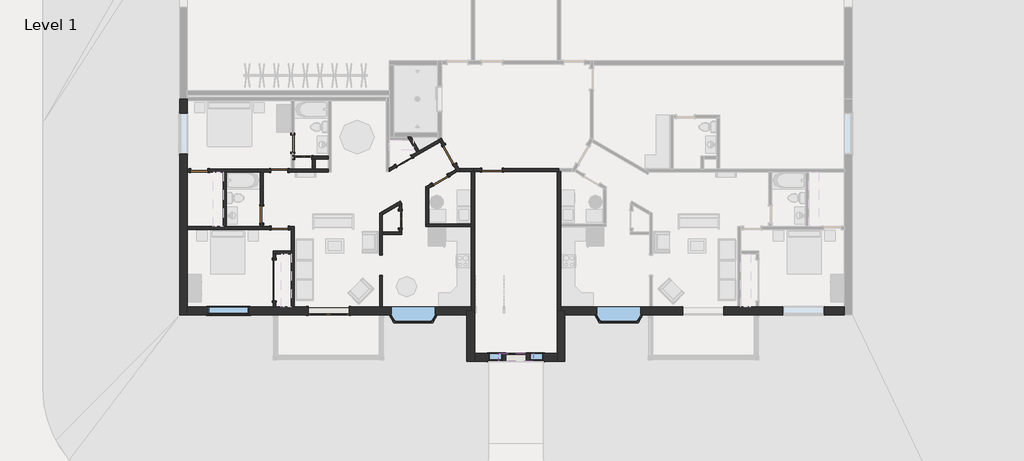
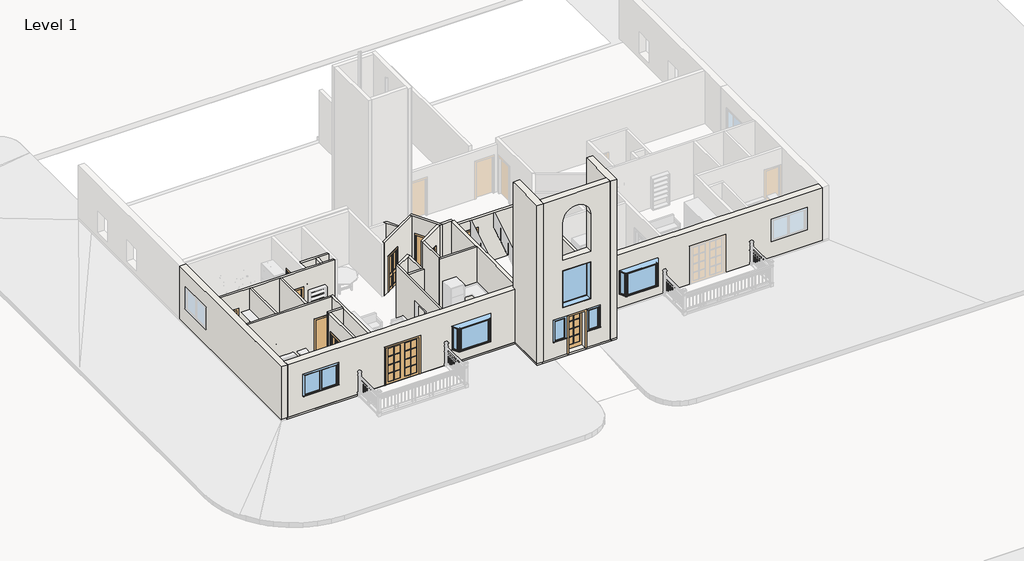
# One storey, part 1 of 4: 33 walls, 14 doors, 6 windows.
"""IFC4 building model written with IfcOpenShell, lengths in millimetres."""

from ifc_helpers import new_model, si_unit, point, frame, frame_2d, origin, origin_with_axes, place, context, project, spatial, polyline, circle_curve, trimmed, segment, composite_curve, outline, extrude, faceted_brep, transform, mapped, element, save
from components import door_28b41c19, door_77c9d7c5, door_c95ce901, door_0a477ef8, door_91cbdfe0, door_39079f6b, door_140ee3fe, door_3dff5d0e, door_7719ec38, window_fb9100aa, window_7fb523db, window_565d5888, window_ed008871, window_5cb77ff5, window_795f97d9

model = new_model("IFC4")

# Units and contexts
model_context = context("Model", 3, world=origin())
ifc_project = project(units=[si_unit("LENGTHUNIT", "METRE", prefix="MILLI")], contexts=[model_context])

# Site, building, storey
site = spatial("IfcSite", under=ifc_project)
building = spatial("IfcBuilding", under=site)
storey = spatial("IfcBuildingStorey", under=building, Name="Level 1", Elevation=0.0)

# Doors
placement = place(None, origin())
door_shape = door_28b41c19(model_context)
element("IfcDoor", 1, ObjectType="Bifold-2 Panel : 30\" x 80\"", at=placement, inside=storey, context=model_context, shape_type="MappedRepresentation", body=[
    mapped(door_shape, transform((-10106.3500398, -807.7286799, 0.0), x_axis=(-1.0, 0.0, 0.0), y_axis=(0.0, -1.0, 0.0), z_axis=(0.0, 0.0, 1.0))),
])
door_2_shape = door_77c9d7c5(model_context)
element("IfcDoor", 2, ObjectType="Bifold-2 Panel : 30\" x 80\"", at=placement, inside=storey, context=model_context, shape_type="MappedRepresentation", body=[
    mapped(door_2_shape, transform((-5777.2375398, -3569.9786799, 0.0), x_axis=(0.0, -1.0, 0.0), y_axis=(1.0, 0.0, 0.0), z_axis=(0.0, 0.0, 1.0))),
])
element("IfcDoor", 3, ObjectType="Bifold-2 Panel : 30\" x 80\"", at=placement, inside=storey, context=model_context, shape_type="MappedRepresentation", body=[
    mapped(door_2_shape, transform((-5620.6593942, -978.2984974, 0.0), x_axis=(-0.8660254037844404, -0.4999999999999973, 0.0), y_axis=(0.4999999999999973, -0.8660254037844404, 0.0), z_axis=(0.0, 0.0, 1.0))),
])
door_3_shape = door_c95ce901(model_context)
element("IfcDoor", 4, ObjectType="Bifold-4 Panel : 72\" x 80\"", at=placement, inside=storey, context=model_context, shape_type="MappedRepresentation", body=[
    mapped(door_3_shape, transform((-11387.4625398, -6287.7786799, 0.0), x_axis=(0.0, 1.0, 0.0), y_axis=(-1.0, 0.0, 0.0), z_axis=(0.0, 0.0, 1.0))),
])
door_4_shape = door_0a477ef8(model_context)
element("IfcDoor", 5, ObjectType="Double-Glass 2 : 72\" x 84\"", at=placement, inside=storey, context=model_context, shape_type="MappedRepresentation", body=[
    mapped(door_4_shape, transform((-8972.8750398, -7646.6786799, 0.0), x_axis=(-1.0, 0.0, 0.0), y_axis=(0.0, -1.0, 0.0), z_axis=(0.0, 0.0, 1.0))),
])
door_5_shape = door_91cbdfe0(model_context)
element("IfcDoor", 6, ObjectType="Single-Flush : 30\" x 80\"", at=placement, inside=storey, context=model_context, shape_type="MappedRepresentation", body=[
    mapped(door_5_shape, transform((-11154.1000398, -3954.1536799, 0.0), x_axis=(1.0, 0.0, 0.0), y_axis=(0.0, 1.0, 0.0), z_axis=(0.0, 0.0, 1.0))),
])
element("IfcDoor", 7, ObjectType="Single-Flush : 30\" x 80\"", at=placement, inside=storey, context=model_context, shape_type="MappedRepresentation", body=[
    mapped(door_5_shape, transform((-4004.5369788, -1809.0046321, 0.0), x_axis=(0.8660254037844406, 0.4999999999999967, 0.0), y_axis=(-0.4999999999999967, 0.8660254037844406, 0.0), z_axis=(0.0, 0.0, 1.0))),
])
element("IfcDoor", 8, ObjectType="Single-Flush : 30\" x 80\"", at=placement, inside=storey, context=model_context, shape_type="MappedRepresentation", body=[
    mapped(door_5_shape, transform((-11949.4375398, -3358.8411799, 0.0), x_axis=(0.0, -1.0, 0.0), y_axis=(1.0, 0.0, 0.0), z_axis=(0.0, 0.0, 1.0))),
])
door_6_shape = door_39079f6b(model_context)
element("IfcDoor", 9, ObjectType="Single-Flush : 30\" x 80\"", at=placement, inside=storey, context=model_context, shape_type="MappedRepresentation", body=[
    mapped(door_6_shape, transform((-11169.9750398, -1391.9286799, 0.0), x_axis=(1.0, 0.0, 0.0), y_axis=(0.0, 1.0, 0.0), z_axis=(0.0, 0.0, 1.0))),
])
element("IfcDoor", 10, ObjectType="Single-Flush : 30\" x 80\"", at=placement, inside=storey, context=model_context, shape_type="MappedRepresentation", body=[
    mapped(door_6_shape, transform((-10574.6625398, -183.8411799, 0.0), x_axis=(0.0, -1.0, 0.0), y_axis=(1.0, 0.0, 0.0), z_axis=(0.0, 0.0, 1.0))),
])
element("IfcDoor", 11, ObjectType="Single-Flush : 30\" x 80\"", at=placement, inside=storey, context=model_context, shape_type="MappedRepresentation", body=[
    mapped(door_6_shape, transform((-14725.9750398, -1391.9286799, 0.0), x_axis=(-1.0, 0.0, 0.0), y_axis=(0.0, -1.0, 0.0), z_axis=(0.0, 0.0, 1.0))),
])
door_7_shape = door_140ee3fe(model_context)
element("IfcDoor", 12, ObjectType="Single-Flush : 36\" x 80\"", at=placement, inside=storey, context=model_context, shape_type="MappedRepresentation", body=[
    mapped(door_7_shape, transform((-3603.7554054, -687.0786799, 0.0), x_axis=(-0.4999999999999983, 0.8660254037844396, 0.0), y_axis=(-0.8660254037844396, -0.4999999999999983, 0.0), z_axis=(0.0, 0.0, 1.0))),
])
door_8_shape = door_3dff5d0e(model_context)
element("IfcDoor", 13, ObjectType="Single-Flush : 36\" x 84\"", at=placement, inside=storey, context=model_context, shape_type="MappedRepresentation", body=[
    mapped(door_8_shape, transform((-1698.9500398, -1372.8786799, 0.0), x_axis=(-1.0, 0.0, 0.0), y_axis=(0.0, -1.0, 0.0), z_axis=(0.0, 0.0, 1.0))),
])
door_9_shape = door_7719ec38(model_context)
element("IfcDoor", 14, ObjectType="Single-Glass 2 : 36\" x 84\"", at=placement, inside=storey, context=model_context, shape_type="MappedRepresentation", body=[
    mapped(door_9_shape, transform((-657.5500398, -9714.6359666, 0.0), x_axis=(1.0, 0.0, 0.0), y_axis=(0.0, 1.0, 0.0), z_axis=(0.0, 0.0, 1.0))),
])

# Walls
element("IfcWall", 15, ObjectType="Exterior - Brick on Mtl. Stud", at=placement, inside=storey, context=model_context, shape_type="Brep", body=[
    faceted_brep([(-2813.3750398, -7646.6786799, 9144.0), (-2813.3750398, -7646.6786799, 6096.0), (-2813.3750398, -7646.6786799, 3048.0), (-2813.3750398, -7646.6786799, 0.0), (-2813.3750398, -7822.8911799, 0.0), (-2813.3750398, -9890.8484666, 0.0), (-2813.3750398, -9890.8484666, 9144.0), (-2813.3750398, -7822.8911799, 9144.0), (-2460.9500398, -7646.6786799, 0.0), (-2460.9500398, -7646.6786799, 3048.0), (-2460.9500398, -7646.6786799, 6096.0), (-2460.9500398, -7646.6786799, 9144.0), (-2460.9500398, -9538.4234666, 9144.0), (-2460.9500398, -9890.8484666, 9144.0), (-2460.9500398, -9890.8484666, 0.0), (-2460.9500398, -9538.4234666, 0.0), (-2616.5250398, -7646.6786799, 0.0), (-2616.5250398, -7646.6786799, 9144.0)], [[[0, 1, 2, 3, 4, 5, 6, 7]], [[8, 9, 10, 11, 12, 13, 14, 15]], [[5, 4, 3, 16, 8, 15, 14]], [[0, 7, 6, 13, 12, 11, 17]], [[6, 5, 14, 13]], [[0, 17, 11, 10, 9, 8, 16, 3, 2, 1]]]),
])
element("IfcWall", 16, ObjectType="Exterior - Brick on Mtl. Stud", at=placement, inside=storey, context=model_context, shape_type="SweptSolid", body=[
    extrude(outline(polyline([(9144.0, 1196.6499602), (9144.0, -2460.9500398), (0.0, -2460.9500398), (0.0, -1089.3500398), (2133.6, -1089.3500398), (2133.6, -174.9500398), (0.0, -174.9500398), (0.0, 1196.6499602), (9144.0, 1196.6499602)]), holes=[polyline([(4876.8, 129.8499602), (2743.2, 129.8499602), (2743.2, -1394.1500398), (4876.8, -1394.1500398), (4876.8, 129.8499602)]), polyline([(914.4, -1851.3500398), (2133.6, -1851.3500398), (2133.6, -1241.7500398), (914.4, -1241.7500398), (914.4, -1851.3500398)]), composite_curve([segment(polyline([(5486.4, -1394.1500398), (7639.05, -1394.1500398)]), True, "CONTINUOUS"), segment(trimmed(circle_curve(frame_2d((7639.05, -632.1500398)), 762.0), [point((7639.05, -1394.1500398))], [point((7639.05, 129.8499602))], True, "CARTESIAN"), True, "CONTINUOUS"), segment(polyline([(7639.05, 129.8499602), (5486.4, 129.8499602), (5486.4, -1394.1500398)]), True, "CONTINUOUS")], self_intersect=False), polyline([(2133.6, 587.0499602), (914.4, 587.0499602), (914.4, -22.5500398), (2133.6, -22.5500398), (2133.6, 587.0499602)])]), frame((0.0, -9890.8484666, 0.0), z_axis=(0.0, 1.0, 0.0), x_axis=(0.0, 0.0, 1.0)), (0.0, 0.0, 1.0), 352.425),
])
element("IfcWall", 17, ObjectType="Exterior - Brick on Mtl. Stud", at=placement, inside=storey, context=model_context, shape_type="Brep", body=[
    faceted_brep([(1549.0749602, -9890.8484666, 0.0), (1549.0749602, -7822.8911799, 0.0), (1549.0749602, -7646.6786799, 0.0), (1549.0749602, -7646.6786799, 3048.0), (1549.0749602, -7646.6786799, 6096.0), (1549.0749602, -7646.6786799, 9144.0), (1549.0749602, -7822.8911799, 9144.0), (1549.0749602, -9890.8484666, 9144.0), (1196.6499602, -9890.8484666, 0.0), (1196.6499602, -9890.8484666, 9144.0), (1196.6499602, -9538.4234666, 9144.0), (1196.6499602, -7646.6786799, 9144.0), (1196.6499602, -7646.6786799, 6096.0), (1196.6499602, -7646.6786799, 3048.0), (1196.6499602, -7646.6786799, 0.0), (1196.6499602, -9538.4234666, 0.0), (1352.2249602, -7646.6786799, 0.0), (1352.2249602, -7646.6786799, 9144.0)], [[[0, 1, 2, 3, 4, 5, 6, 7]], [[8, 9, 10, 11, 12, 13, 14, 15]], [[2, 1, 0, 8, 15, 14, 16]], [[7, 6, 5, 17, 11, 10, 9]], [[0, 7, 9, 8]], [[2, 16, 14, 13, 12, 11, 17, 5, 4, 3]]]),
])
element("IfcWall", 18, ObjectType="Exterior - Brick on Mtl. Stud", at=placement, inside=storey, context=model_context, shape_type="Brep", body=[
    faceted_brep([(-15259.3750398, -7822.8911799, 0.0), (-9887.2750398, -7822.8911799, 0.0), (-9887.2750398, -7822.8911799, 2133.6), (-8058.4750398, -7822.8911799, 2133.6), (-8058.4750398, -7822.8911799, 0.0), (-2813.3750398, -7822.8911799, 0.0), (-2813.3750398, -7822.8911799, 3048.0), (-8058.4750398, -7822.8911799, 3048.0), (-9887.2750398, -7822.8911799, 3048.0), (-15259.3750398, -7822.8911799, 3048.0), (-6259.7532738, -7822.8911799, 2133.6), (-4151.6375398, -7822.8911799, 2133.6), (-4151.6375398, -7822.8911799, 762.0), (-6259.7532738, -7822.8911799, 762.0), (-14350.5312898, -7822.8911799, 2133.6), (-12521.7312898, -7822.8911799, 2133.6), (-12521.7312898, -7822.8911799, 914.4), (-14350.5312898, -7822.8911799, 914.4), (-9887.2750398, -7470.4661799, 2133.6), (-9887.2750398, -7470.4661799, 0.0), (-10512.7500398, -7470.4661799, 0.0), (-10636.5750398, -7470.4661799, 0.0), (-11325.5500398, -7470.4661799, 0.0), (-11449.3750398, -7470.4661799, 0.0), (-15259.3750398, -7470.4661799, 0.0), (-15259.3750398, -7470.4661799, 3048.0), (-11449.3750398, -7470.4661799, 3048.0), (-11325.5500398, -7470.4661799, 3048.0), (-10636.5750398, -7470.4661799, 3048.0), (-10512.7500398, -7470.4661799, 3048.0), (-9887.2750398, -7470.4661799, 3048.0), (-8058.4750398, -7470.4661799, 3048.0), (-6702.7500398, -7470.4661799, 3048.0), (-6578.9250398, -7470.4661799, 3048.0), (-2616.5250398, -7470.4661799, 3048.0), (-2616.5250398, -7470.4661799, 0.0), (-6578.9250398, -7470.4661799, 0.0), (-6702.7500398, -7470.4661799, 0.0), (-8058.4750398, -7470.4661799, 0.0), (-8058.4750398, -7470.4661799, 2133.6), (-4218.9373798, -7470.4661799, 2133.6), (-6192.5376998, -7470.4661799, 2133.6), (-6192.5376998, -7470.4661799, 762.0), (-4218.9373798, -7470.4661799, 762.0), (-14350.5312898, -7470.4661799, 2133.6), (-14350.5312898, -7470.4661799, 914.4), (-12521.7312898, -7470.4661799, 914.4), (-12521.7312898, -7470.4661799, 2133.6), (-2616.5250398, -7646.6786799, 0.0), (-2813.3750398, -7646.6786799, 0.0), (-2813.3750398, -7646.6786799, 3048.0), (-2616.5250398, -7646.6786799, 3048.0), (-4218.9373798, -7783.9404412, 2133.6), (-6192.5376998, -7783.9890922, 2133.6), (-4218.9373798, -7783.9404412, 762.0), (-6192.5376998, -7783.9890922, 762.0)], [[[0, 1, 2, 3, 4, 5, 6, 7, 8, 9], [10, 11, 12, 13], [14, 15, 16, 17]], [[18, 19, 20, 21, 22, 23, 24, 25, 26, 27, 28, 29, 30, 31, 32, 33, 34, 35, 36, 37, 38, 39], [40, 41, 42, 43], [44, 45, 46, 47]], [[24, 23, 22, 21, 20, 19, 1, 0]], [[38, 37, 36, 35, 48, 49, 5, 4]], [[9, 8, 7, 6, 50, 51, 34, 33, 32, 31, 30, 29, 28, 27, 26, 25]], [[0, 9, 25, 24]], [[6, 5, 49, 50]], [[49, 48, 51, 50]], [[48, 35, 34, 51]], [[2, 1, 19, 18]], [[3, 2, 18, 39]], [[4, 3, 39, 38]], [[52, 11, 10, 53, 41, 40]], [[54, 43, 42, 55, 13, 12]], [[52, 40, 43, 54]], [[41, 53, 55, 42]], [[53, 10, 13, 55]], [[11, 52, 54, 12]], [[45, 44, 14, 17]], [[46, 45, 17, 16]], [[47, 46, 16, 15]], [[44, 47, 15, 14]]]),
])
element("IfcWall", 19, ObjectType="Exterior - Brick on Mtl. Stud", at=placement, inside=storey, context=model_context, shape_type="Brep", body=[
    faceted_brep([(-15611.8000398, 1795.7713201, 0.0), (-15611.8000398, -7822.8911799, 0.0), (-15611.8000398, -7822.8911799, 3048.0), (-15611.8000398, 1795.7713201, 3048.0), (-15611.8000398, 1170.2963201, 2133.6), (-15611.8000398, -658.5036799, 2133.6), (-15611.8000398, -658.5036799, 914.4), (-15611.8000398, 1170.2963201, 914.4), (-15259.3750398, 1795.7713201, 0.0), (-15259.3750398, 1795.7713201, 3048.0), (-15259.3750398, 1717.9838201, 3048.0), (-15259.3750398, -1330.0161799, 3048.0), (-15259.3750398, -1453.8411799, 3048.0), (-15259.3750398, -3892.2411799, 3048.0), (-15259.3750398, -4016.0661799, 3048.0), (-15259.3750398, -7470.4661799, 3048.0), (-15259.3750398, -7822.8911799, 3048.0), (-15259.3750398, -7822.8911799, 0.0), (-15259.3750398, -7470.4661799, 0.0), (-15259.3750398, -4016.0661799, 0.0), (-15259.3750398, -3892.2411799, 0.0), (-15259.3750398, -1453.8411799, 0.0), (-15259.3750398, -1330.0161799, 0.0), (-15259.3750398, 1717.9838201, 0.0), (-15259.3750398, 1170.2963201, 2133.6), (-15259.3750398, 1170.2963201, 914.4), (-15259.3750398, -658.5036799, 914.4), (-15259.3750398, -658.5036799, 2133.6)], [[[0, 1, 2, 3], [4, 5, 6, 7]], [[8, 9, 10, 11, 12, 13, 14, 15, 16, 17, 18, 19, 20, 21, 22, 23], [24, 25, 26, 27]], [[1, 0, 8, 23, 22, 21, 20, 19, 18, 17]], [[3, 2, 16, 15, 14, 13, 12, 11, 10, 9]], [[0, 3, 9, 8]], [[2, 1, 17, 16]], [[25, 24, 4, 7]], [[26, 25, 7, 6]], [[27, 26, 6, 5]], [[24, 27, 5, 4]]]),
])
element("IfcWall", 20, ObjectType="Exterior - Brick on Mtl. Stud", at=placement, inside=storey, context=model_context, shape_type="Brep", body=[
    faceted_brep([(13995.0749602, -7470.4661799, 0.0), (10185.0749602, -7470.4661799, 0.0), (10061.2499602, -7470.4661799, 0.0), (9372.2749602, -7470.4661799, 0.0), (9248.4499602, -7470.4661799, 0.0), (8622.9749602, -7470.4661799, 0.0), (8622.9749602, -7470.4661799, 2133.6), (6794.1749602, -7470.4661799, 2133.6), (6794.1749602, -7470.4661799, 0.0), (5438.4499602, -7470.4661799, 0.0), (5314.6249602, -7470.4661799, 0.0), (1352.2249602, -7470.4661799, 0.0), (1352.2249602, -7470.4661799, 3048.0), (5314.6249602, -7470.4661799, 3048.0), (5438.4499602, -7470.4661799, 3048.0), (6794.1749602, -7470.4661799, 3048.0), (8622.9749602, -7470.4661799, 3048.0), (9248.4499602, -7470.4661799, 3048.0), (9372.2749602, -7470.4661799, 3048.0), (10061.2499602, -7470.4661799, 3048.0), (10185.0749602, -7470.4661799, 3048.0), (13995.0749602, -7470.4661799, 3048.0), (4928.2376202, -7470.4661799, 2133.6), (2954.6373002, -7470.4661799, 2133.6), (2954.6373002, -7470.4661799, 762.0), (4928.2376202, -7470.4661799, 762.0), (13086.2312102, -7470.4661799, 2133.6), (11257.4312102, -7470.4661799, 2133.6), (11257.4312102, -7470.4661799, 914.4), (13086.2312102, -7470.4661799, 914.4), (8622.9749602, -7822.8911799, 2133.6), (8622.9749602, -7822.8911799, 0.0), (13995.0749602, -7822.8911799, 0.0), (13995.0749602, -7822.8911799, 3048.0), (8622.9749602, -7822.8911799, 3048.0), (6794.1749602, -7822.8911799, 3048.0), (1549.0749602, -7822.8911799, 3048.0), (1549.0749602, -7822.8911799, 0.0), (6794.1749602, -7822.8911799, 0.0), (6794.1749602, -7822.8911799, 2133.6), (2887.3374602, -7822.8911799, 2133.6), (4995.4531942, -7822.8911799, 2133.6), (4995.4531942, -7822.8911799, 762.0), (2887.3374602, -7822.8911799, 762.0), (13086.2312102, -7822.8911799, 2133.6), (13086.2312102, -7822.8911799, 914.4), (11257.4312102, -7822.8911799, 914.4), (11257.4312102, -7822.8911799, 2133.6), (1549.0749602, -7646.6786799, 0.0), (1352.2249602, -7646.6786799, 0.0), (1352.2249602, -7646.6786799, 3048.0), (1549.0749602, -7646.6786799, 3048.0), (2954.6373002, -7783.9404412, 2133.6), (4928.2376202, -7783.9890922, 2133.6), (2954.6373002, -7783.9404412, 762.0), (4928.2376202, -7783.9890922, 762.0)], [[[0, 1, 2, 3, 4, 5, 6, 7, 8, 9, 10, 11, 12, 13, 14, 15, 16, 17, 18, 19, 20, 21], [22, 23, 24, 25], [26, 27, 28, 29]], [[30, 31, 32, 33, 34, 35, 36, 37, 38, 39], [40, 41, 42, 43], [44, 45, 46, 47]], [[32, 31, 5, 4, 3, 2, 1, 0]], [[38, 37, 48, 49, 11, 10, 9, 8]], [[21, 20, 19, 18, 17, 16, 15, 14, 13, 12, 50, 51, 36, 35, 34, 33]], [[12, 11, 49, 50]], [[49, 48, 51, 50]], [[48, 37, 36, 51]], [[0, 21, 33, 32]], [[6, 5, 31, 30]], [[7, 6, 30, 39]], [[8, 7, 39, 38]], [[52, 23, 22, 53, 41, 40]], [[54, 43, 42, 55, 25, 24]], [[52, 54, 24, 23]], [[22, 25, 55, 53]], [[53, 55, 42, 41]], [[40, 43, 54, 52]], [[45, 44, 26, 29]], [[46, 45, 29, 28]], [[47, 46, 28, 27]], [[44, 47, 27, 26]]]),
])
element("IfcWall", 21, ObjectType="Foundation - 12\" Concrete", at=placement, inside=storey, context=model_context, shape_type="Brep", body=[
    faceted_brep([(1244.2749602, -7822.8911799, -914.4), (1244.2749602, -9586.0484666, -914.4), (1244.2749602, -9890.8484666, -914.4), (1244.2749602, -9890.8484666, 0.0), (1244.2749602, -9586.0484666, 0.0), (1244.2749602, -7822.8911799, 0.0), (1549.0749602, -7822.8911799, -914.4), (1549.0749602, -7822.8911799, 0.0), (1549.0749602, -9890.8484666, 0.0), (1549.0749602, -9890.8484666, -914.4)], [[[0, 1, 2, 3, 4, 5]], [[6, 7, 8, 9]], [[2, 1, 0, 6, 9]], [[5, 4, 3, 8, 7]], [[0, 5, 7, 6]], [[3, 2, 9, 8]]]),
])
element("IfcWall", 22, ObjectType="Foundation - 12\" Concrete", at=placement, inside=storey, context=model_context, shape_type="SweptSolid", body=[
    extrude(outline(polyline([(-15307.0000398, -7518.0911799), (-2813.3750398, -7518.0911799), (-2813.3750398, -7822.8911799), (-15307.0000398, -7822.8911799), (-15307.0000398, -7518.0911799)])), frame((0.0, 0.0, -914.4), z_axis=(0.0, 0.0, 1.0), x_axis=(1.0, 0.0, 0.0)), (0.0, 0.0, 1.0), 914.4),
])
element("IfcWall", 23, ObjectType="Foundation - 12\" Concrete", at=placement, inside=storey, context=model_context, shape_type="Brep", body=[
    faceted_brep([(-2508.5750398, -9890.8484666, -914.4), (-2508.5750398, -9586.0484666, -914.4), (-2508.5750398, -7518.0911799, -914.4), (-2508.5750398, -7518.0911799, 0.0), (-2508.5750398, -9586.0484666, 0.0), (-2508.5750398, -9890.8484666, 0.0), (-2813.3750398, -9890.8484666, -914.4), (-2813.3750398, -9890.8484666, 0.0), (-2813.3750398, -7822.8911799, 0.0), (-2813.3750398, -7518.0911799, 0.0), (-2813.3750398, -7518.0911799, -914.4), (-2813.3750398, -7822.8911799, -914.4)], [[[0, 1, 2, 3, 4, 5]], [[6, 7, 8, 9, 10, 11]], [[2, 1, 0, 6, 11, 10]], [[5, 4, 3, 9, 8, 7]], [[3, 2, 10, 9]], [[0, 5, 7, 6]]]),
])
element("IfcWall", 24, ObjectType="Foundation - 12\" Concrete", at=placement, inside=storey, context=model_context, shape_type="SweptSolid", body=[
    extrude(outline(polyline([(-2508.5750398, -9586.0484666), (1244.2749602, -9586.0484666), (1244.2749602, -9890.8484666), (-2508.5750398, -9890.8484666), (-2508.5750398, -9586.0484666)])), frame((0.0, 0.0, -914.4), z_axis=(0.0, 0.0, 1.0), x_axis=(1.0, 0.0, 0.0)), (0.0, 0.0, 1.0), 914.4),
])
element("IfcWall", 25, ObjectType="Generic - 6\" Masonry", at=placement, inside=storey, context=model_context, shape_type="Brep", body=[
    faceted_brep([(-3084.0752113, -1444.3161799, 0.0), (-2616.5250398, -1444.3161799, 0.0), (-2538.7375398, -1444.3161799, 0.0), (-2538.7375398, -1444.3161799, 2743.2), (-2538.7375398, -1444.3161799, 3048.0), (-2616.5250398, -1444.3161799, 3048.0), (-3084.0752113, -1444.3161799, 3048.0), (-3166.564131, -1301.4411799, 0.0), (-3166.564131, -1301.4411799, 3048.0), (-2538.7375398, -1301.4411799, 3048.0), (-2538.7375398, -1301.4411799, 2743.2), (-2538.7375398, -1301.4411799, 0.0)], [[[0, 1, 2, 3, 4, 5, 6]], [[7, 8, 9, 10, 11]], [[2, 1, 0, 7, 11]], [[4, 3, 2, 11, 10, 9]], [[6, 5, 4, 9, 8]], [[0, 6, 8, 7]]]),
])
element("IfcWall", 26, ObjectType="Generic - 6\" Masonry", at=placement, inside=storey, context=model_context, shape_type="Brep", body=[
    faceted_brep([(-4074.7024624, -14.2494496, 0.0), (-4012.7899624, -121.4850452, 0.0), (-3894.2220952, -326.8506153, 0.0), (-3894.2220952, -326.8506153, 2032.0), (-3437.0220952, -1118.7442445, 2032.0), (-3437.0220952, -1118.7442445, 0.0), (-3310.9655507, -1337.0805843, 0.0), (-3249.0530507, -1444.3161799, 0.0), (-3249.0530507, -1444.3161799, 3048.0), (-3310.9655507, -1337.0805843, 3048.0), (-4012.7899624, -121.4850452, 3048.0), (-4074.7024624, -14.2494496, 3048.0), (-3770.4887156, -255.4131153, 2032.0), (-3770.4887156, -255.4131153, 0.0), (-3950.9690828, 57.1880504, 0.0), (-3950.9690828, 57.1880504, 3048.0), (-3166.564131, -1301.4411799, 3048.0), (-3084.0752113, -1444.3161799, 3048.0), (-3084.0752113, -1444.3161799, 0.0), (-3166.564131, -1301.4411799, 0.0), (-3313.2887156, -1047.3067445, 0.0), (-3313.2887156, -1047.3067445, 2032.0)], [[[0, 1, 2, 3, 4, 5, 6, 7, 8, 9, 10, 11]], [[12, 13, 14, 15, 16, 17, 18, 19, 20, 21]], [[14, 13, 2, 1, 0]], [[20, 19, 18, 7, 6, 5]], [[11, 10, 9, 8, 17, 16, 15]], [[8, 7, 18, 17]], [[0, 11, 15, 14]], [[3, 2, 13, 12]], [[4, 3, 12, 21]], [[5, 4, 21, 20]]]),
])
element("IfcWall", 27, ObjectType="Generic - 6\" Masonry", at=placement, inside=storey, context=model_context, shape_type="Brep", body=[
    faceted_brep([(-2538.7375398, -1444.3161799, 0.0), (-2460.9500398, -1444.3161799, 0.0), (-2156.1500398, -1444.3161799, 0.0), (-2156.1500398, -1444.3161799, 2133.6), (-1241.7500398, -1444.3161799, 2133.6), (-1241.7500398, -1444.3161799, 0.0), (1196.6499602, -1444.3161799, 0.0), (1274.4374602, -1444.3161799, 0.0), (1274.4374602, -1444.3161799, 2743.2), (1196.6499602, -1444.3161799, 2743.2), (-2538.7375398, -1444.3161799, 2743.2), (-2156.1500398, -1301.4411799, 2133.6), (-2156.1500398, -1301.4411799, 0.0), (-2538.7375398, -1301.4411799, 0.0), (-2538.7375398, -1301.4411799, 2743.2), (1196.6499602, -1301.4411799, 2743.2), (1274.4374602, -1301.4411799, 2743.2), (1274.4374602, -1301.4411799, 0.0), (-1241.7500398, -1301.4411799, 0.0), (-1241.7500398, -1301.4411799, 2133.6), (1274.4374602, -1372.8786799, 2743.2), (-2538.7375398, -1372.8786799, 2743.2)], [[[0, 1, 2, 3, 4, 5, 6, 7, 8, 9, 10]], [[11, 12, 13, 14, 15, 16, 17, 18, 19]], [[18, 17, 7, 6, 5]], [[13, 12, 2, 1, 0]], [[8, 7, 17, 16, 20]], [[0, 10, 21, 14, 13]], [[3, 2, 12, 11]], [[4, 3, 11, 19]], [[5, 4, 19, 18]], [[20, 16, 15, 14, 21, 10, 9, 8]]]),
])
element("IfcWall", 28, ObjectType="Interior - 4 7/8\" Partition (1-hr)", at=placement, inside=storey, context=model_context, shape_type="Brep", body=[
    faceted_brep([(-6578.9250398, -7470.4661799, 0.0), (-6578.9250398, -6071.8786799, 0.0), (-6578.9250398, -6071.8786799, 2032.0), (-6578.9250398, -5157.4786799, 2032.0), (-6578.9250398, -5157.4786799, 0.0), (-6578.9250398, -4244.6661799, 0.0), (-6578.9250398, -4120.8411799, 0.0), (-6578.9250398, -3366.8186692, 0.0), (-6578.9250398, -3223.8378751, 0.0), (-6578.9250398, -3223.8378751, 3048.0), (-6578.9250398, -3366.8186692, 3048.0), (-6578.9250398, -4120.8411799, 3048.0), (-6578.9250398, -4244.6661799, 3048.0), (-6578.9250398, -7470.4661799, 3048.0), (-6702.7500398, -6071.8786799, 2032.0), (-6702.7500398, -6071.8786799, 0.0), (-6702.7500398, -7470.4661799, 0.0), (-6702.7500398, -7470.4661799, 3048.0), (-6702.7500398, -3295.3282721, 3048.0), (-6702.7500398, -3295.3282721, 0.0), (-6702.7500398, -5157.4786799, 0.0), (-6702.7500398, -5157.4786799, 2032.0)], [[[0, 1, 2, 3, 4, 5, 6, 7, 8, 9, 10, 11, 12, 13]], [[14, 15, 16, 17, 18, 19, 20, 21]], [[16, 15, 1, 0]], [[20, 19, 8, 7, 6, 5, 4]], [[13, 12, 11, 10, 9, 18, 17]], [[9, 8, 19, 18]], [[0, 13, 17, 16]], [[4, 3, 21, 20]], [[2, 1, 15, 14]], [[3, 2, 14, 21]]]),
])
element("IfcWall", 29, ObjectType="Interior - 4 7/8\" Partition (1-hr)", at=placement, inside=storey, context=model_context, shape_type="Brep", body=[
    faceted_brep([(-10512.7500398, -7470.4661799, 0.0), (-10512.7500398, -3892.2411799, 0.0), (-10512.7500398, -3892.2411799, 3048.0), (-10512.7500398, -7470.4661799, 3048.0), (-10636.5750398, -7470.4661799, 0.0), (-10636.5750398, -7470.4661799, 3048.0), (-10636.5750398, -5105.0911799, 3048.0), (-10636.5750398, -4981.2661799, 3048.0), (-10636.5750398, -4016.0661799, 3048.0), (-10636.5750398, -3892.2411799, 3048.0), (-10636.5750398, -3892.2411799, 0.0), (-10636.5750398, -4016.0661799, 0.0), (-10636.5750398, -4981.2661799, 0.0), (-10636.5750398, -5105.0911799, 0.0)], [[[0, 1, 2, 3]], [[4, 5, 6, 7, 8, 9, 10, 11, 12, 13]], [[1, 0, 4, 13, 12, 11, 10]], [[3, 2, 9, 8, 7, 6, 5]], [[2, 1, 10, 9]], [[0, 3, 5, 4]]]),
])
element("IfcWall", 30, ObjectType="Interior - 4 7/8\" Partition (1-hr)", at=placement, inside=storey, context=model_context, shape_type="Brep", body=[
    faceted_brep([(-10636.5750398, -3892.2411799, 0.0), (-10773.1000398, -3892.2411799, 0.0), (-10773.1000398, -3892.2411799, 2032.0), (-11535.1000398, -3892.2411799, 2032.0), (-11535.1000398, -3892.2411799, 0.0), (-11887.5250398, -3892.2411799, 0.0), (-12011.3500398, -3892.2411799, 0.0), (-13535.3500398, -3892.2411799, 0.0), (-13659.1750398, -3892.2411799, 0.0), (-15259.3750398, -3892.2411799, 0.0), (-15259.3750398, -3892.2411799, 3048.0), (-13659.1750398, -3892.2411799, 3048.0), (-13535.3500398, -3892.2411799, 3048.0), (-12011.3500398, -3892.2411799, 3048.0), (-11887.5250398, -3892.2411799, 3048.0), (-10636.5750398, -3892.2411799, 3048.0), (-10773.1000398, -4016.0661799, 2032.0), (-10773.1000398, -4016.0661799, 0.0), (-10636.5750398, -4016.0661799, 0.0), (-10636.5750398, -4016.0661799, 3048.0), (-15259.3750398, -4016.0661799, 3048.0), (-15259.3750398, -4016.0661799, 0.0), (-11535.1000398, -4016.0661799, 0.0), (-11535.1000398, -4016.0661799, 2032.0)], [[[0, 1, 2, 3, 4, 5, 6, 7, 8, 9, 10, 11, 12, 13, 14, 15]], [[16, 17, 18, 19, 20, 21, 22, 23]], [[18, 17, 1, 0]], [[22, 21, 9, 8, 7, 6, 5, 4]], [[15, 14, 13, 12, 11, 10, 20, 19]], [[0, 15, 19, 18]], [[10, 9, 21, 20]], [[2, 1, 17, 16]], [[3, 2, 16, 23]], [[4, 3, 23, 22]]]),
])
element("IfcWall", 31, ObjectType="Interior - 4 7/8\" Partition (1-hr)", at=placement, inside=storey, context=model_context, shape_type="SweptSolid", body=[
    extrude(outline(polyline([(-3739.8411799, 2032.0), (-3739.8411799, 0.0), (-3892.2411799, 0.0), (-3892.2411799, 3048.0), (-1453.8411799, 3048.0), (-1453.8411799, 0.0), (-2977.8411799, 0.0), (-2977.8411799, 2032.0), (-3739.8411799, 2032.0)])), frame((-12011.3500398, 0.0, 0.0), z_axis=(1.0, 0.0, 0.0), x_axis=(0.0, 1.0, 0.0)), (0.0, 0.0, 1.0), 123.825),
])
element("IfcWall", 32, ObjectType="Interior - 4 7/8\" Partition (1-hr)", at=placement, inside=storey, context=model_context, shape_type="Brep", body=[
    faceted_brep([(-10636.5750398, -4981.2661799, 0.0), (-11449.3750398, -4981.2661799, 0.0), (-11449.3750398, -4981.2661799, 3048.0), (-10636.5750398, -4981.2661799, 3048.0), (-10636.5750398, -5105.0911799, 0.0), (-10636.5750398, -5105.0911799, 3048.0), (-11325.5500398, -5105.0911799, 3048.0), (-11449.3750398, -5105.0911799, 3048.0), (-11449.3750398, -5105.0911799, 0.0), (-11325.5500398, -5105.0911799, 0.0)], [[[0, 1, 2, 3]], [[4, 5, 6, 7, 8, 9]], [[1, 0, 4, 9, 8]], [[3, 2, 7, 6, 5]], [[2, 1, 8, 7]], [[0, 3, 5, 4]]]),
])
element("IfcWall", 33, ObjectType="Interior - 4 7/8\" Partition (1-hr)", at=placement, inside=storey, context=model_context, shape_type="SweptSolid", body=[
    extrude(outline(polyline([(-5105.0911799, 0.0), (-5373.3786799, 0.0), (-5373.3786799, 2032.0), (-7202.1786799, 2032.0), (-7202.1786799, 0.0), (-7470.4661799, 0.0), (-7470.4661799, 3048.0), (-5105.0911799, 3048.0), (-5105.0911799, 0.0)])), frame((-11449.3750398, 0.0, 0.0), z_axis=(1.0, 0.0, 0.0), x_axis=(0.0, 1.0, 0.0)), (0.0, 0.0, 1.0), 123.825),
])
element("IfcWall", 34, ObjectType="Interior - 4 7/8\" Partition (1-hr)", at=placement, inside=storey, context=model_context, shape_type="SweptSolid", body=[
    extrude(outline(polyline([(-13535.3500398, -1453.8411799), (-13535.3500398, -3892.2411799), (-13659.1750398, -3892.2411799), (-13659.1750398, -1453.8411799), (-13535.3500398, -1453.8411799)])), origin_with_axes(), (0.0, 0.0, 1.0), 3048.0),
])
element("IfcWall", 35, ObjectType="Interior - 4 7/8\" Partition (1-hr)", at=placement, inside=storey, context=model_context, shape_type="Brep", body=[
    faceted_brep([(-15259.3750398, -1453.8411799, 0.0), (-15106.9750398, -1453.8411799, 0.0), (-15106.9750398, -1453.8411799, 2032.0), (-14344.9750398, -1453.8411799, 2032.0), (-14344.9750398, -1453.8411799, 0.0), (-13659.1750398, -1453.8411799, 0.0), (-13535.3500398, -1453.8411799, 0.0), (-12011.3500398, -1453.8411799, 0.0), (-11887.5250398, -1453.8411799, 0.0), (-11550.9750398, -1453.8411799, 0.0), (-11550.9750398, -1453.8411799, 2032.0), (-10788.9750398, -1453.8411799, 2032.0), (-10788.9750398, -1453.8411799, 0.0), (-8988.7500398, -1453.8411799, 0.0), (-8988.7500398, -1453.8411799, 3048.0), (-11887.5250398, -1453.8411799, 3048.0), (-12011.3500398, -1453.8411799, 3048.0), (-13535.3500398, -1453.8411799, 3048.0), (-13659.1750398, -1453.8411799, 3048.0), (-15259.3750398, -1453.8411799, 3048.0), (-15106.9750398, -1330.0161799, 2032.0), (-15106.9750398, -1330.0161799, 0.0), (-15259.3750398, -1330.0161799, 0.0), (-15259.3750398, -1330.0161799, 3048.0), (-10636.5750398, -1330.0161799, 3048.0), (-10512.7500398, -1330.0161799, 3048.0), (-9699.9500398, -1330.0161799, 3048.0), (-9576.1250398, -1330.0161799, 3048.0), (-8988.7500398, -1330.0161799, 3048.0), (-8988.7500398, -1330.0161799, 0.0), (-9576.1250398, -1330.0161799, 0.0), (-9699.9500398, -1330.0161799, 0.0), (-10512.7500398, -1330.0161799, 0.0), (-10636.5750398, -1330.0161799, 0.0), (-10788.9750398, -1330.0161799, 0.0), (-10788.9750398, -1330.0161799, 2032.0), (-11550.9750398, -1330.0161799, 2032.0), (-11550.9750398, -1330.0161799, 0.0), (-14344.9750398, -1330.0161799, 0.0), (-14344.9750398, -1330.0161799, 2032.0)], [[[0, 1, 2, 3, 4, 5, 6, 7, 8, 9, 10, 11, 12, 13, 14, 15, 16, 17, 18, 19]], [[20, 21, 22, 23, 24, 25, 26, 27, 28, 29, 30, 31, 32, 33, 34, 35, 36, 37, 38, 39]], [[13, 12, 34, 33, 32, 31, 30, 29]], [[22, 21, 1, 0]], [[38, 37, 9, 8, 7, 6, 5, 4]], [[19, 18, 17, 16, 15, 14, 28, 27, 26, 25, 24, 23]], [[0, 19, 23, 22]], [[14, 13, 29, 28]], [[35, 34, 12, 11]], [[36, 35, 11, 10]], [[37, 36, 10, 9]], [[2, 1, 21, 20]], [[3, 2, 20, 39]], [[4, 3, 39, 38]]]),
])
element("IfcWall", 36, ObjectType="Interior - 4 7/8\" Partition (1-hr)", at=placement, inside=storey, context=model_context, shape_type="Brep", body=[
    faceted_brep([(-6578.9250398, -4244.6661799, 0.0), (-5715.3250398, -4244.6661799, 0.0), (-5715.3250398, -4244.6661799, 3048.0), (-6578.9250398, -4244.6661799, 3048.0), (-6578.9250398, -4120.8411799, 0.0), (-6578.9250398, -4120.8411799, 3048.0), (-5839.1500398, -4120.8411799, 3048.0), (-5715.3250398, -4120.8411799, 3048.0), (-5715.3250398, -4120.8411799, 0.0), (-5839.1500398, -4120.8411799, 0.0)], [[[0, 1, 2, 3]], [[4, 5, 6, 7, 8, 9]], [[1, 0, 4, 9, 8]], [[3, 2, 7, 6, 5]], [[2, 1, 8, 7]], [[0, 3, 5, 4]]]),
])
element("IfcWall", 37, ObjectType="Interior - 4 7/8\" Partition (1-hr)", at=placement, inside=storey, context=model_context, shape_type="Brep", body=[
    faceted_brep([(-5715.3250398, -4120.8411799, 0.0), (-5715.3250398, -3950.9786799, 0.0), (-5715.3250398, -3950.9786799, 2032.0), (-5715.3250398, -3188.9786799, 2032.0), (-5715.3250398, -3188.9786799, 0.0), (-5715.3250398, -2868.2189767, 0.0), (-5715.3250398, -2868.2189767, 3048.0), (-5715.3250398, -4120.8411799, 3048.0), (-5839.1500398, -3950.9786799, 2032.0), (-5839.1500398, -3950.9786799, 0.0), (-5839.1500398, -4120.8411799, 0.0), (-5839.1500398, -4120.8411799, 3048.0), (-5839.1500398, -2939.7093738, 3048.0), (-5839.1500398, -2939.7093738, 0.0), (-5839.1500398, -3188.9786799, 0.0), (-5839.1500398, -3188.9786799, 2032.0)], [[[0, 1, 2, 3, 4, 5, 6, 7]], [[8, 9, 10, 11, 12, 13, 14, 15]], [[10, 9, 1, 0]], [[14, 13, 5, 4]], [[7, 6, 12, 11]], [[0, 7, 11, 10]], [[6, 5, 13, 12]], [[2, 1, 9, 8]], [[3, 2, 8, 15]], [[4, 3, 15, 14]]]),
])
element("IfcWall", 38, ObjectType="Interior - 4 7/8\" Partition (1-hr)", at=placement, inside=storey, context=model_context, shape_type="Brep", body=[
    faceted_brep([(-3310.9655507, -1337.0805843, 0.0), (-3705.53755, -1564.8868343, 0.0), (-3705.53755, -1564.8868343, 2032.0), (-4365.4489076, -1945.8868343, 2032.0), (-4365.4489076, -1945.8868343, 0.0), (-4648.5250398, -2109.3209154, 0.0), (-4648.5250398, -2109.3209154, 3048.0), (-3310.9655507, -1337.0805843, 3048.0), (-3643.62505, -1672.1224299, 2032.0), (-3643.62505, -1672.1224299, 0.0), (-3249.0530507, -1444.3161799, 0.0), (-3249.0530507, -1444.3161799, 3048.0), (-4524.7000398, -2180.8113125, 3048.0), (-4648.5250398, -2252.3017096, 3048.0), (-4648.5250398, -2252.3017096, 0.0), (-4524.7000398, -2180.8113125, 0.0), (-4303.5364076, -2053.1224299, 0.0), (-4303.5364076, -2053.1224299, 2032.0)], [[[0, 1, 2, 3, 4, 5, 6, 7]], [[8, 9, 10, 11, 12, 13, 14, 15, 16, 17]], [[10, 9, 1, 0]], [[16, 15, 14, 5, 4]], [[7, 6, 13, 12, 11]], [[6, 5, 14, 13]], [[0, 7, 11, 10]], [[2, 1, 9, 8]], [[3, 2, 8, 17]], [[4, 3, 17, 16]]]),
])
element("IfcWall", 39, ObjectType="Interior - 4 7/8\" Partition (1-hr)", at=placement, inside=storey, context=model_context, shape_type="Brep", body=[
    faceted_brep([(-4648.5250398, -3889.0661799, 0.0), (-2616.5250398, -3889.0661799, 0.0), (-2616.5250398, -3889.0661799, 3048.0), (-4648.5250398, -3889.0661799, 3048.0), (-4648.5250398, -3765.2411799, 0.0), (-4648.5250398, -3765.2411799, 3048.0), (-4524.7000398, -3765.2411799, 3048.0), (-2616.5250398, -3765.2411799, 3048.0), (-2616.5250398, -3765.2411799, 0.0), (-4524.7000398, -3765.2411799, 0.0)], [[[0, 1, 2, 3]], [[4, 5, 6, 7, 8, 9]], [[1, 0, 4, 9, 8]], [[3, 2, 7, 6, 5]], [[0, 3, 5, 4]], [[2, 1, 8, 7]]]),
])
element("IfcWall", 40, ObjectType="Interior - 4 7/8\" Partition (1-hr)", at=placement, inside=storey, context=model_context, shape_type="SweptSolid", body=[
    extrude(outline(polyline([(-4524.7000398, -2180.8113125), (-4524.7000398, -3765.2411799), (-4648.5250398, -3765.2411799), (-4648.5250398, -2252.3017096), (-4524.7000398, -2180.8113125)])), origin_with_axes(), (0.0, 0.0, 1.0), 3048.0),
])
element("IfcWall", 41, ObjectType="Interior - 4 7/8\" Partition (1-hr)", at=placement, inside=storey, context=model_context, shape_type="Brep", body=[
    faceted_brep([(-5777.2375398, -2760.9833811, 0.0), (-6578.9250398, -3223.8378751, 0.0), (-6578.9250398, -3223.8378751, 3048.0), (-5777.2375398, -2760.9833811, 3048.0), (-5715.3250398, -2868.2189767, 0.0), (-5715.3250398, -2868.2189767, 3048.0), (-5839.1500398, -2939.7093738, 3048.0), (-6578.9250398, -3366.8186692, 3048.0), (-6578.9250398, -3366.8186692, 0.0), (-5839.1500398, -2939.7093738, 0.0)], [[[0, 1, 2, 3]], [[4, 5, 6, 7, 8, 9]], [[1, 0, 4, 9, 8]], [[3, 2, 7, 6, 5]], [[0, 3, 5, 4]], [[2, 1, 8, 7]]]),
])
element("IfcWall", 42, ObjectType="Interior - 4 7/8\" Partition (1-hr)", at=placement, inside=storey, context=model_context, shape_type="Brep", body=[
    faceted_brep([(-6277.3000398, -1428.900548, 0.0), (-5919.658823, -1222.4162952, 0.0), (-5919.658823, -1222.4162952, 2032.0), (-5259.7474653, -841.4162952, 2032.0), (-5259.7474653, -841.4162952, 0.0), (-4012.7899624, -121.4850452, 0.0), (-4012.7899624, -121.4850452, 3048.0), (-6277.3000398, -1428.900548, 3048.0), (-5981.571323, -1115.1806996, 2032.0), (-5981.571323, -1115.1806996, 0.0), (-6277.3000398, -1285.9197539, 0.0), (-6277.3000398, -1285.9197539, 3048.0), (-5981.571323, -1115.1806996, 3048.0), (-5321.6599653, -734.1806996, 3048.0), (-5050.8213456, -577.8119496, 3048.0), (-4943.58575, -515.8994496, 3048.0), (-4074.7024624, -14.2494496, 3048.0), (-4074.7024624, -14.2494496, 0.0), (-4943.58575, -515.8994496, 0.0), (-5050.8213456, -577.8119496, 0.0), (-5321.6599653, -734.1806996, 0.0), (-5321.6599653, -734.1806996, 2032.0)], [[[0, 1, 2, 3, 4, 5, 6, 7]], [[8, 9, 10, 11, 12, 13, 14, 15, 16, 17, 18, 19, 20, 21]], [[10, 9, 1, 0]], [[20, 19, 18, 17, 5, 4]], [[7, 6, 16, 15, 14, 13, 12, 11]], [[0, 7, 11, 10]], [[6, 5, 17, 16]], [[2, 1, 9, 8]], [[3, 2, 8, 21]], [[4, 3, 21, 20]]]),
])
element("IfcWall", 43, ObjectType="Interior - 4 7/8\" Partition (1-hr)", at=placement, inside=storey, context=model_context, shape_type="Brep", body=[
    faceted_brep([(-4943.58575, -515.8994496, 0.0), (-5296.3292288, 95.0701778, 0.0), (-5296.3292288, 95.0701778, 3048.0), (-4943.58575, -515.8994496, 3048.0), (-5050.8213456, -577.8119496, 0.0), (-5050.8213456, -577.8119496, 3048.0), (-5367.8196259, -28.7548222, 3048.0), (-5439.310023, 95.0701778, 3048.0), (-5439.310023, 95.0701778, 0.0), (-5367.8196259, -28.7548222, 0.0)], [[[0, 1, 2, 3]], [[4, 5, 6, 7, 8, 9]], [[1, 0, 4, 9, 8]], [[3, 2, 7, 6, 5]], [[2, 1, 8, 7]], [[0, 3, 5, 4]]]),
])
element("IfcWall", 44, ObjectType="Interior - 4 7/8\" Partition (1-hr)", at=placement, inside=storey, context=model_context, shape_type="Brep", body=[
    faceted_brep([(-10512.7500398, -745.8161799, 3048.0), (-8988.7500398, -745.8161799, 3048.0), (-8988.7500398, -745.8161799, 0.0), (-9725.3500398, -745.8161799, 0.0), (-9725.3500398, -745.8161799, 2032.0), (-10487.3500398, -745.8161799, 2032.0), (-10487.3500398, -745.8161799, 0.0), (-10512.7500398, -745.8161799, 0.0), (-8988.7500398, -869.6411799, 3048.0), (-9576.1250398, -869.6411799, 3048.0), (-9699.9500398, -869.6411799, 3048.0), (-10512.7500398, -869.6411799, 3048.0), (-10512.7500398, -869.6411799, 0.0), (-10487.3500398, -869.6411799, 0.0), (-10487.3500398, -869.6411799, 2032.0), (-9725.3500398, -869.6411799, 2032.0), (-9725.3500398, -869.6411799, 0.0), (-9699.9500398, -869.6411799, 0.0), (-9576.1250398, -869.6411799, 0.0), (-8988.7500398, -869.6411799, 0.0)], [[[0, 1, 2, 3, 4, 5, 6, 7]], [[8, 9, 10, 11, 12, 13, 14, 15, 16, 17, 18, 19]], [[2, 19, 18, 17, 16, 3]], [[12, 7, 6, 13]], [[1, 0, 11, 10, 9, 8]], [[2, 1, 8, 19]], [[0, 7, 12, 11]], [[5, 14, 13, 6]], [[14, 5, 4, 15]], [[15, 4, 3, 16]]]),
])
element("IfcWall", 45, ObjectType="Interior - 4 7/8\" Partition (1-hr)", at=placement, inside=storey, context=model_context, shape_type="SweptSolid", body=[
    extrude(outline(polyline([(-9699.9500398, -1330.0161799), (-9699.9500398, -869.6411799), (-9576.1250398, -869.6411799), (-9576.1250398, -1330.0161799), (-9699.9500398, -1330.0161799)])), origin_with_axes(), (0.0, 0.0, 1.0), 3048.0),
])
element("IfcWall", 46, ObjectType="Interior - 6 1/8\" Partition (2-hr)", at=placement, inside=storey, context=model_context, shape_type="Brep", body=[
    faceted_brep([(-2616.5250398, -1444.3161799, 3048.0), (-2616.5250398, -1444.3161799, 0.0), (-2616.5250398, -3765.2411799, 0.0), (-2616.5250398, -3889.0661799, 0.0), (-2616.5250398, -7470.4661799, 0.0), (-2616.5250398, -7646.6786799, 0.0), (-2616.5250398, -7646.6786799, 3048.0), (-2616.5250398, -7470.4661799, 3048.0), (-2616.5250398, -3889.0661799, 3048.0), (-2616.5250398, -3765.2411799, 3048.0), (-2460.9500398, -1444.3161799, 0.0), (-2460.9500398, -1444.3161799, 3048.0), (-2460.9500398, -7646.6786799, 3048.0), (-2460.9500398, -7646.6786799, 0.0), (-2538.7375398, -1444.3161799, 0.0), (-2538.7375398, -1444.3161799, 3048.0)], [[[0, 1, 2, 3, 4, 5, 6, 7, 8, 9]], [[10, 11, 12, 13]], [[5, 4, 3, 2, 1, 14, 10, 13]], [[6, 5, 13, 12]], [[0, 9, 8, 7, 6, 12, 11, 15]], [[0, 15, 11, 10, 14, 1]]]),
])
element("IfcWall", 47, ObjectType="Interior - 6 1/8\" Partition (2-hr)", at=placement, inside=storey, context=model_context, shape_type="Brep", body=[
    faceted_brep([(1196.6499602, -1444.3161799, 3048.0), (1196.6499602, -1444.3161799, 2743.2), (1196.6499602, -1444.3161799, 0.0), (1196.6499602, -7646.6786799, 0.0), (1196.6499602, -7646.6786799, 3048.0), (1352.2249602, -1444.3161799, 0.0), (1352.2249602, -1444.3161799, 3048.0), (1352.2249602, -3765.2411799, 3048.0), (1352.2249602, -3889.0661799, 3048.0), (1352.2249602, -7470.4661799, 3048.0), (1352.2249602, -7646.6786799, 3048.0), (1352.2249602, -7646.6786799, 0.0), (1352.2249602, -7470.4661799, 0.0), (1352.2249602, -3889.0661799, 0.0), (1352.2249602, -3765.2411799, 0.0), (1274.4374602, -1444.3161799, 0.0)], [[[0, 1, 2, 3, 4]], [[5, 6, 7, 8, 9, 10, 11, 12, 13, 14]], [[3, 2, 15, 5, 14, 13, 12, 11]], [[4, 3, 11, 10]], [[0, 4, 10, 9, 8, 7, 6]], [[0, 6, 5, 15, 2, 1]]]),
])

# Windows
window_shape = window_fb9100aa(model_context)
element("IfcWindow", 48, ObjectType="Bay-30 Deg : 84\" x 54\"", at=placement, inside=storey, context=model_context, shape_type="MappedRepresentation", body=[
    mapped(window_shape, transform((-5205.7861908, -7646.6786799, 0.0), x_axis=(-1.0, 0.0, 0.0), y_axis=(0.0, -1.0, 0.0), z_axis=(0.0, 0.0, 1.0))),
])
window_2_shape = window_7fb523db(model_context)
element("IfcWindow", 49, ObjectType="Bay-30 Deg : 84\" x 54\"", at=placement, inside=storey, context=model_context, shape_type="MappedRepresentation", body=[
    mapped(window_2_shape, transform((3941.4861112, -7646.6786799, 0.0), x_axis=(1.0, 0.0, 0.0), y_axis=(0.0, 1.0, 0.0), z_axis=(0.0, 0.0, 1.0))),
])
window_3_shape = window_565d5888(model_context)
element("IfcWindow", 50, ObjectType="Casement Dbl with Trim : 72\" x 48\"", at=placement, inside=storey, context=model_context, shape_type="MappedRepresentation", body=[
    mapped(window_3_shape, transform((-13436.1312898, -7627.6286799, -304.8), x_axis=(-1.0, 0.0, 0.0), y_axis=(0.0, -1.0, 0.0), z_axis=(0.0, 0.0, 1.0))),
])
window_4_shape = window_ed008871(model_context)
element("IfcWindow", 51, ObjectType="Casement with Trim : 24\" x 48\"", at=placement, inside=storey, context=model_context, shape_type="MappedRepresentation", body=[
    mapped(window_4_shape, transform((-1546.5500398, -9714.6359666, 0.0), x_axis=(-1.0, 0.0, 0.0), y_axis=(0.0, -1.0, 0.0), z_axis=(0.0, 0.0, 1.0))),
])
window_5_shape = window_5cb77ff5(model_context)
element("IfcWindow", 52, ObjectType="Casement with Trim : 24\" x 48\"", at=placement, inside=storey, context=model_context, shape_type="MappedRepresentation", body=[
    mapped(window_5_shape, transform((282.2499602, -9714.6359666, 0.0), x_axis=(1.0, 0.0, 0.0), y_axis=(0.0, 1.0, 0.0), z_axis=(0.0, 0.0, 1.0))),
])
window_6_shape = window_795f97d9(model_context)
element("IfcWindow", 53, ObjectType="Fixed : 60\" x 84\"", at=placement, inside=storey, context=model_context, shape_type="MappedRepresentation", body=[
    mapped(window_6_shape, transform((-594.0500398, -9714.6359666, 2438.4), x_axis=(1.0, 0.0, 0.0), y_axis=(0.0, 1.0, 0.0), z_axis=(0.0, 0.0, 1.0))),
])

save(model, "model.ifc")
